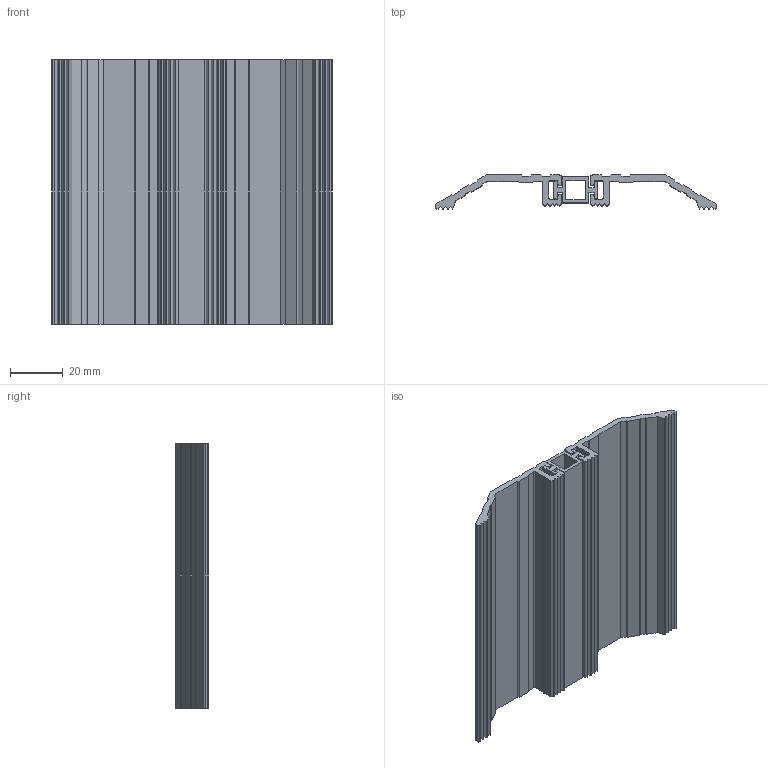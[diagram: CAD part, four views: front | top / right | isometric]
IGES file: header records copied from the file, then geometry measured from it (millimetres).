
Global section: file name: No Iges File Name specified; native system: Autodesk Inventor 2012; preprocessor: AutoDesk Inventor Iges Exporter R2012; author: anna.b; date: 20130725.115350; units: millimetre
Bounding box: 106.07 x 12.7 x 100 mm (x, y, z)
Volume: 38390.1 mm3; surface area: 39857.1 mm2
Topology: 3 solids, 3 shells, 186 faces, 540 edges, 360 vertices
Faces by surface type: plane 160, cylinder 16, revolution 10
